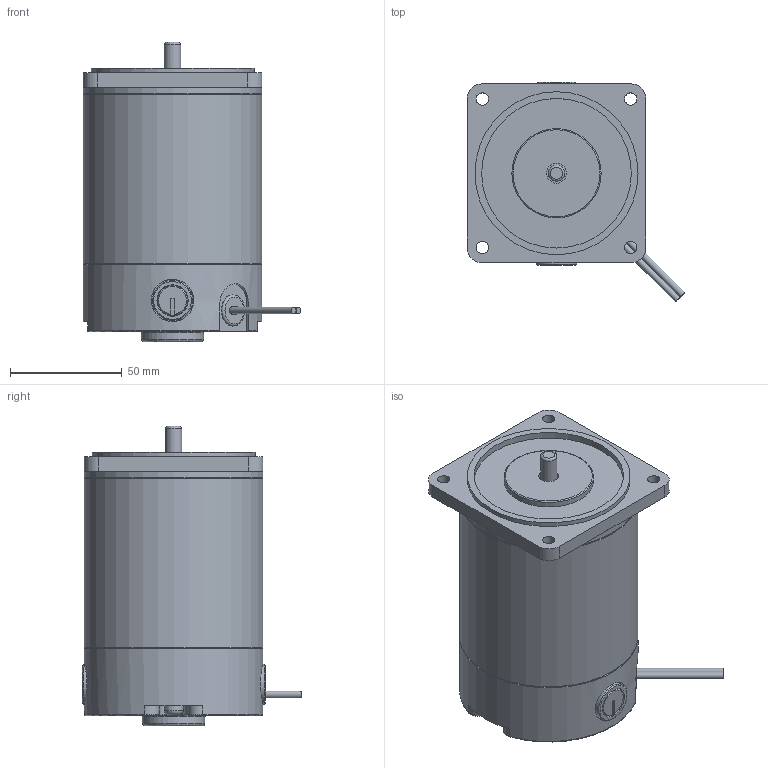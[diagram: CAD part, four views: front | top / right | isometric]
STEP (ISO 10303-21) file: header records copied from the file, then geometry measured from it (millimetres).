
FILE_DESCRIPTION((''),'2;1');
FILE_NAME('C:\Documents and Settings\ycw1227\바탕 화면\S8D40-ㅁA.stp','2013-06-04T08:11:25',('ycw1227'),(''),'Autodesk Inventor 2011','Autodesk Inventor 2011','');
FILE_SCHEMA(('AUTOMOTIVE_DESIGN { 1 0 10303 214 1 1 1 1 }'));
Length unit declared in the file: millimetre
Products named in the file (1): 부품10
Bounding box: 97.45 x 98.45 x 134.1 mm (x, y, z)
Volume: 593419.1 mm3; surface area: 51012.8 mm2
Topology: 1 solids, 3 shells, 174 faces, 411 edges, 266 vertices
Faces by surface type: plane 98, cylinder 46, torus 16, cone 14
Full cylindrical faces by diameter (mm): 3 x2, 5 x2, 5.5 x4, 7.33 x1, 8.5 x2, 9 x2, 13.5 x2, 14 x3, 18 x2, 19 x2, 28 x1, 40 x1, 67 x1, 73 x1, 80 x3
Entity records: 5064 total; most frequent: CARTESIAN_POINT 1013, DIRECTION 825, ORIENTED_EDGE 736, EDGE_CURVE 368, AXIS2_PLACEMENT_3D 325, VERTEX_POINT 261, EDGE_LOOP 244, VECTOR 175
